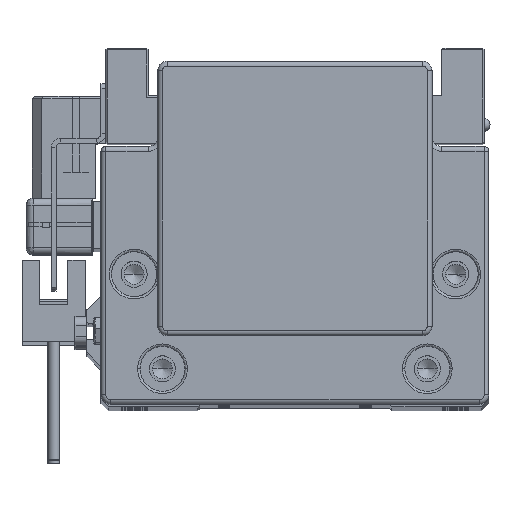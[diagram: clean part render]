
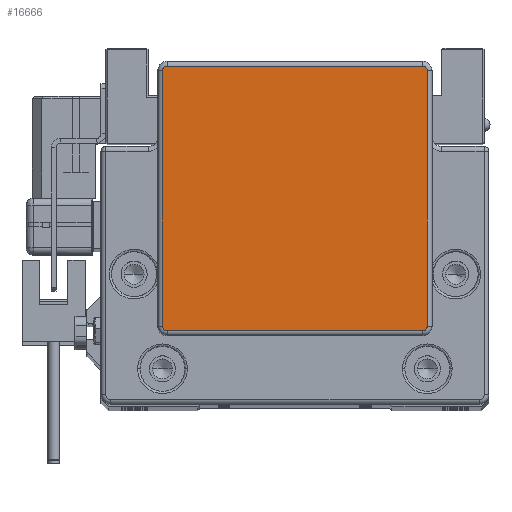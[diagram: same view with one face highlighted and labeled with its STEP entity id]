
A CAD part, top view. The second image highlights one B-rep face of the part: STEP entity #16666.
In plain terms, the highlighted planar face has unit normal (0, 0, 1).
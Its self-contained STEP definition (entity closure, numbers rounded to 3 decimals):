
#290 = AXIS2_PLACEMENT_3D ( 'NONE', #2900, #17925, #17450 ) ;
#1403 = CARTESIAN_POINT ( 'NONE',  ( -28., -19.75, 17. ) ) ;
#1618 = CARTESIAN_POINT ( 'NONE',  ( -27., 35.25, 17. ) ) ;
#2900 = CARTESIAN_POINT ( 'NONE',  ( 27., 34.25, 17. ) ) ;
#3022 = LINE ( 'NONE', #21145, #34423 ) ;
#3200 = CIRCLE ( 'NONE', #41276, 1. ) ;
#3342 = CIRCLE ( 'NONE', #290, 1. ) ;
#3587 = CARTESIAN_POINT ( 'NONE',  ( -28., 34.25, 17. ) ) ;
#3841 = EDGE_CURVE ( 'NONE', #23102, #18251, #3200, .T. ) ;
#5654 = ORIENTED_EDGE ( 'NONE', *, *, #17056, .T. ) ;
#6094 = DIRECTION ( 'NONE',  ( 0., 0., 1. ) ) ;
#6742 = VERTEX_POINT ( 'NONE', #28223 ) ;
#8866 = VECTOR ( 'NONE', #14530, 1000. ) ;
#9596 = CARTESIAN_POINT ( 'NONE',  ( 27., -20.75, 17. ) ) ;
#10282 = CARTESIAN_POINT ( 'NONE',  ( 27., -20.75, 17. ) ) ;
#10829 = VERTEX_POINT ( 'NONE', #9596 ) ;
#11123 = DIRECTION ( 'NONE',  ( 0., 1., 0. ) ) ;
#11483 = DIRECTION ( 'NONE',  ( 0., 0., 1. ) ) ;
#11732 = AXIS2_PLACEMENT_3D ( 'NONE', #35133, #21263, #45848 ) ;
#13577 = CARTESIAN_POINT ( 'NONE',  ( -27., -20.75, 17. ) ) ;
#13705 = ORIENTED_EDGE ( 'NONE', *, *, #3841, .T. ) ;
#13765 = EDGE_CURVE ( 'NONE', #10829, #30286, #26547, .T. ) ;
#14530 = DIRECTION ( 'NONE',  ( 0., -1., 0. ) ) ;
#14881 = DIRECTION ( 'NONE',  ( 1., 0., 0. ) ) ;
#15817 = CARTESIAN_POINT ( 'NONE',  ( 27., -19.75, 17. ) ) ;
#16240 = ORIENTED_EDGE ( 'NONE', *, *, #38422, .T. ) ;
#16666 = ADVANCED_FACE ( 'NONE', ( #38766 ), #46389, .T. ) ;
#17056 = EDGE_CURVE ( 'NONE', #27256, #19630, #26198, .T. ) ;
#17450 = DIRECTION ( 'NONE',  ( 1., 0., 0. ) ) ;
#17925 = DIRECTION ( 'NONE',  ( 0., 0., 1. ) ) ;
#18251 = VERTEX_POINT ( 'NONE', #3587 ) ;
#18879 = DIRECTION ( 'NONE',  ( 1., 0., 0. ) ) ;
#19630 = VERTEX_POINT ( 'NONE', #13577 ) ;
#19974 = VECTOR ( 'NONE', #44580, 1000. ) ;
#20558 = CARTESIAN_POINT ( 'NONE',  ( 28., -19.75, 17. ) ) ;
#20863 = EDGE_CURVE ( 'NONE', #18251, #27256, #47216, .T. ) ;
#21145 = CARTESIAN_POINT ( 'NONE',  ( 28., 34.25, 17. ) ) ;
#21263 = DIRECTION ( 'NONE',  ( 0., 0., 1. ) ) ;
#23102 = VERTEX_POINT ( 'NONE', #24475 ) ;
#24430 = CARTESIAN_POINT ( 'NONE',  ( -27., -19.75, 17. ) ) ;
#24475 = CARTESIAN_POINT ( 'NONE',  ( -27., 35.25, 17. ) ) ;
#25228 = EDGE_CURVE ( 'NONE', #6742, #37920, #3342, .T. ) ;
#26198 = CIRCLE ( 'NONE', #11732, 1. ) ;
#26547 = CIRCLE ( 'NONE', #30358, 1. ) ;
#27256 = VERTEX_POINT ( 'NONE', #1403 ) ;
#28223 = CARTESIAN_POINT ( 'NONE',  ( 28., 34.25, 17. ) ) ;
#28881 = ORIENTED_EDGE ( 'NONE', *, *, #25228, .T. ) ;
#29142 = CARTESIAN_POINT ( 'NONE',  ( 27., 35.25, 17. ) ) ;
#30286 = VERTEX_POINT ( 'NONE', #20558 ) ;
#30358 = AXIS2_PLACEMENT_3D ( 'NONE', #15817, #37071, #14881 ) ;
#32223 = LINE ( 'NONE', #10282, #40363 ) ;
#33851 = LINE ( 'NONE', #1618, #19974 ) ;
#34423 = VECTOR ( 'NONE', #11123, 1000. ) ;
#35133 = CARTESIAN_POINT ( 'NONE',  ( -27., -19.75, 17. ) ) ;
#35974 = EDGE_CURVE ( 'NONE', #19630, #10829, #32223, .T. ) ;
#36026 = CARTESIAN_POINT ( 'NONE',  ( -28., -19.75, 17. ) ) ;
#36116 = ORIENTED_EDGE ( 'NONE', *, *, #37547, .T. ) ;
#36948 = ORIENTED_EDGE ( 'NONE', *, *, #13765, .T. ) ;
#37071 = DIRECTION ( 'NONE',  ( 0., 0., 1. ) ) ;
#37547 = EDGE_CURVE ( 'NONE', #30286, #6742, #3022, .T. ) ;
#37920 = VERTEX_POINT ( 'NONE', #29142 ) ;
#38422 = EDGE_CURVE ( 'NONE', #37920, #23102, #33851, .T. ) ;
#38766 = FACE_OUTER_BOUND ( 'NONE', #43177, .T. ) ;
#39107 = ORIENTED_EDGE ( 'NONE', *, *, #35974, .T. ) ;
#39192 = AXIS2_PLACEMENT_3D ( 'NONE', #24430, #6094, #46152 ) ;
#40363 = VECTOR ( 'NONE', #42967, 1000. ) ;
#41276 = AXIS2_PLACEMENT_3D ( 'NONE', #44176, #11483, #18879 ) ;
#42967 = DIRECTION ( 'NONE',  ( 1., 0., 0. ) ) ;
#43177 = EDGE_LOOP ( 'NONE', ( #16240, #13705, #43488, #5654, #39107, #36948, #36116, #28881 ) ) ;
#43488 = ORIENTED_EDGE ( 'NONE', *, *, #20863, .T. ) ;
#44176 = CARTESIAN_POINT ( 'NONE',  ( -27., 34.25, 17. ) ) ;
#44580 = DIRECTION ( 'NONE',  ( -1., 0., 0. ) ) ;
#45848 = DIRECTION ( 'NONE',  ( 1., 0., 0. ) ) ;
#46152 = DIRECTION ( 'NONE',  ( 1., 0., 0. ) ) ;
#46389 = PLANE ( 'NONE',  #39192 ) ;
#47216 = LINE ( 'NONE', #36026, #8866 ) ;
